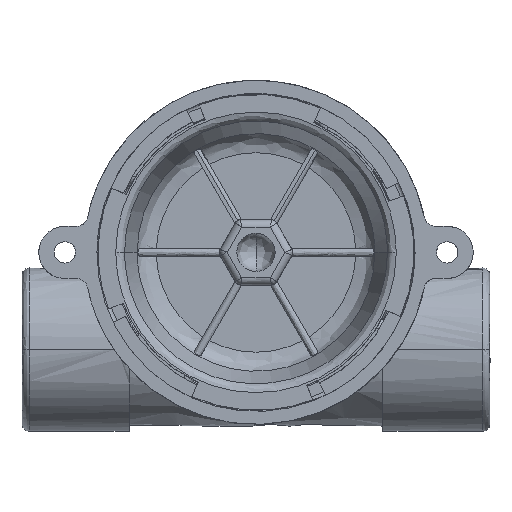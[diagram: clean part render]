
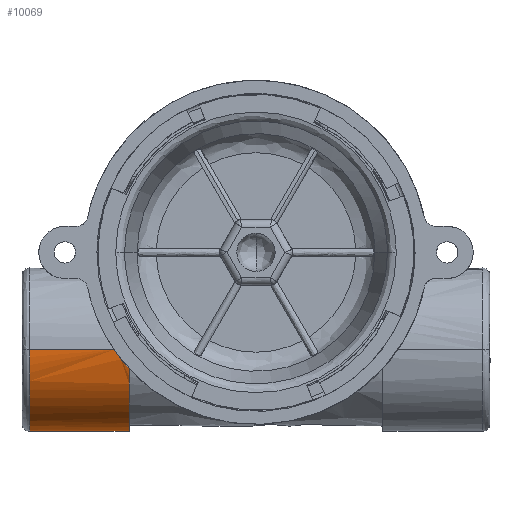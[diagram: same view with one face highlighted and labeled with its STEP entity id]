
A CAD part, top view. The second image highlights one B-rep face of the part: STEP entity #10069.
In plain terms, the highlighted free-form (B-spline) face has degree [1, 3] with [2, 7] control points.
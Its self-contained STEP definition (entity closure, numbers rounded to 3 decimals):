
#134 = ORIENTED_EDGE ( 'NONE', *, *, #15828, .T. ) ;
#483 = VERTEX_POINT ( 'NONE', #5008 ) ;
#575 = CARTESIAN_POINT ( 'NONE',  ( 8.509, -16.129, -37.592 ) ) ;
#1277 =( BOUNDED_CURVE ( )  B_SPLINE_CURVE ( 3, ( #25235, #27139, #20888, #575 ),
 .UNSPECIFIED., .F., .F. ) 
 B_SPLINE_CURVE_WITH_KNOTS ( ( 4, 4 ),
 ( 0.5, 1. ),
 .UNSPECIFIED. ) 
 CURVE ( )  GEOMETRIC_REPRESENTATION_ITEM ( )  RATIONAL_B_SPLINE_CURVE ( ( 1., 0.333, 0.333, 1. ) ) 
 REPRESENTATION_ITEM ( '' )  );
#1396 = CARTESIAN_POINT ( 'NONE',  ( 13.968, -40.559, -21.082 ) ) ;
#1629 = VERTEX_POINT ( 'NONE', #18326 ) ;
#1726 = ORIENTED_EDGE ( 'NONE', *, *, #16708, .T. ) ;
#2435 =( BOUNDED_CURVE ( )  B_SPLINE_CURVE ( 3, ( #15017, #3855, #1396, #14595 ),
 .UNSPECIFIED., .F., .F. ) 
 B_SPLINE_CURVE_WITH_KNOTS ( ( 4, 4 ),
 ( 0.281, 1. ),
 .UNSPECIFIED. ) 
 CURVE ( )  GEOMETRIC_REPRESENTATION_ITEM ( )  RATIONAL_B_SPLINE_CURVE ( ( 1., 0.411, 0.411, 1. ) ) 
 REPRESENTATION_ITEM ( '' )  );
#2640 = CARTESIAN_POINT ( 'NONE',  ( 35.687, -24.089, -21.082 ) ) ;
#3583 = EDGE_CURVE ( 'NONE', #1629, #483, #1277, .T. ) ;
#3855 = CARTESIAN_POINT ( 'NONE',  ( 35.687, -37.999, -21.082 ) ) ;
#4515 = FACE_OUTER_BOUND ( 'NONE', #9288, .T. ) ;
#5008 = CARTESIAN_POINT ( 'NONE',  ( 8.509, -16.129, -37.592 ) ) ;
#6209 = CARTESIAN_POINT ( 'NONE',  ( 8.882, -19.289, -21.082 ) ) ;
#6831 = CARTESIAN_POINT ( 'NONE',  ( 35.687, -24.089, -37.592 ) ) ;
#6972 = CARTESIAN_POINT ( 'NONE',  ( 14.138, -29.718, -21.082 ) ) ;
#8108 = ORIENTED_EDGE ( 'NONE', *, *, #25378, .T. ) ;
#8731 = CARTESIAN_POINT ( 'NONE',  ( 8.509, -16.129, -23.588 ) ) ;
#8869 = CARTESIAN_POINT ( 'NONE',  ( 8.509, -16.129, -37.592 ) ) ;
#8949 = B_SPLINE_CURVE_WITH_KNOTS ( 'NONE', 1,
 ( #19546, #24031 ),
 .UNSPECIFIED., .F., .F.,
 ( 2, 2 ),
 ( 0., 1. ),
 .UNSPECIFIED. ) ;
#9014 = CARTESIAN_POINT ( 'NONE',  ( 30.058, -29.718, -37.592 ) ) ;
#9288 = EDGE_LOOP ( 'NONE', ( #11037, #134, #1726, #8108, #14788 ) ) ;
#10069 = ADVANCED_FACE ( 'NONE', ( #4515 ), #14738, .T. ) ;
#11037 = ORIENTED_EDGE ( 'NONE', *, *, #3583, .F. ) ;
#13370 = EDGE_CURVE ( 'NONE', #483, #19069, #14302, .T. ) ;
#14302 = B_SPLINE_CURVE_WITH_KNOTS ( 'NONE', 1,
 ( #21930, #19174 ),
 .UNSPECIFIED., .F., .F.,
 ( 2, 2 ),
 ( 0., 0.848 ),
 .UNSPECIFIED. ) ;
#14534 = CARTESIAN_POINT ( 'NONE',  ( 8.509, -17.205, -22.852 ) ) ;
#14595 = CARTESIAN_POINT ( 'NONE',  ( 8.882, -19.289, -21.082 ) ) ;
#14629 = VERTEX_POINT ( 'NONE', #17671 ) ;
#14738 =( BOUNDED_SURFACE ( )  B_SPLINE_SURFACE ( 1, 3, ( 
 ( #22672, #6831, #9014, #15968, #15529, #17863, #8869 ),
 ( #28609, #2640, #26723, #24408, #6972, #15379, #17722 ) ),
 .UNSPECIFIED., .F., .F., .F. ) 
 B_SPLINE_SURFACE_WITH_KNOTS ( ( 2, 2 ),
 ( 4, 3, 4 ),
 ( 0., 1. ),
 ( 0., 0.5, 1. ),
 .UNSPECIFIED. ) 
 GEOMETRIC_REPRESENTATION_ITEM ( )  RATIONAL_B_SPLINE_SURFACE ( (
 ( 1., 0.805, 0.805, 1., 0.805, 0.805, 1.),
 ( 1., 0.805, 0.805, 1., 0.805, 0.805, 1.) ) ) 
 REPRESENTATION_ITEM ( '' )  SURFACE ( )  );
#14788 = ORIENTED_EDGE ( 'NONE', *, *, #13370, .F. ) ;
#15017 = CARTESIAN_POINT ( 'NONE',  ( 35.687, -16.129, -21.082 ) ) ;
#15379 = CARTESIAN_POINT ( 'NONE',  ( 8.509, -24.089, -21.082 ) ) ;
#15529 = CARTESIAN_POINT ( 'NONE',  ( 14.138, -29.718, -37.592 ) ) ;
#15828 = EDGE_CURVE ( 'NONE', #1629, #18996, #8949, .T. ) ;
#15968 = CARTESIAN_POINT ( 'NONE',  ( 22.098, -29.718, -37.592 ) ) ;
#16662 = B_SPLINE_CURVE_WITH_KNOTS ( 'NONE', 3,
 ( #6209, #28431, #14534, #18754 ),
 .UNSPECIFIED., .F., .F.,
 ( 4, 4 ),
 ( 0., 1. ),
 .UNSPECIFIED. ) ;
#16708 = EDGE_CURVE ( 'NONE', #18996, #14629, #2435, .T. ) ;
#17671 = CARTESIAN_POINT ( 'NONE',  ( 8.882, -19.289, -21.082 ) ) ;
#17722 = CARTESIAN_POINT ( 'NONE',  ( 8.509, -16.129, -21.082 ) ) ;
#17863 = CARTESIAN_POINT ( 'NONE',  ( 8.509, -24.089, -37.592 ) ) ;
#18326 = CARTESIAN_POINT ( 'NONE',  ( 35.687, -16.129, -37.592 ) ) ;
#18754 = CARTESIAN_POINT ( 'NONE',  ( 8.509, -16.129, -23.588 ) ) ;
#18996 = VERTEX_POINT ( 'NONE', #22323 ) ;
#19069 = VERTEX_POINT ( 'NONE', #8731 ) ;
#19174 = CARTESIAN_POINT ( 'NONE',  ( 8.509, -16.129, -23.588 ) ) ;
#19546 = CARTESIAN_POINT ( 'NONE',  ( 35.687, -16.129, -37.592 ) ) ;
#20888 = CARTESIAN_POINT ( 'NONE',  ( 8.509, -43.307, -37.592 ) ) ;
#21930 = CARTESIAN_POINT ( 'NONE',  ( 8.509, -16.129, -37.592 ) ) ;
#22323 = CARTESIAN_POINT ( 'NONE',  ( 35.687, -16.129, -21.082 ) ) ;
#22672 = CARTESIAN_POINT ( 'NONE',  ( 35.687, -16.129, -37.592 ) ) ;
#24031 = CARTESIAN_POINT ( 'NONE',  ( 35.687, -16.129, -21.082 ) ) ;
#24408 = CARTESIAN_POINT ( 'NONE',  ( 22.098, -29.718, -21.082 ) ) ;
#25235 = CARTESIAN_POINT ( 'NONE',  ( 35.687, -16.129, -37.592 ) ) ;
#25378 = EDGE_CURVE ( 'NONE', #14629, #19069, #16662, .T. ) ;
#26723 = CARTESIAN_POINT ( 'NONE',  ( 30.058, -29.718, -21.082 ) ) ;
#27139 = CARTESIAN_POINT ( 'NONE',  ( 35.687, -43.307, -37.592 ) ) ;
#28431 = CARTESIAN_POINT ( 'NONE',  ( 8.637, -18.267, -22.017 ) ) ;
#28609 = CARTESIAN_POINT ( 'NONE',  ( 35.687, -16.129, -21.082 ) ) ;
